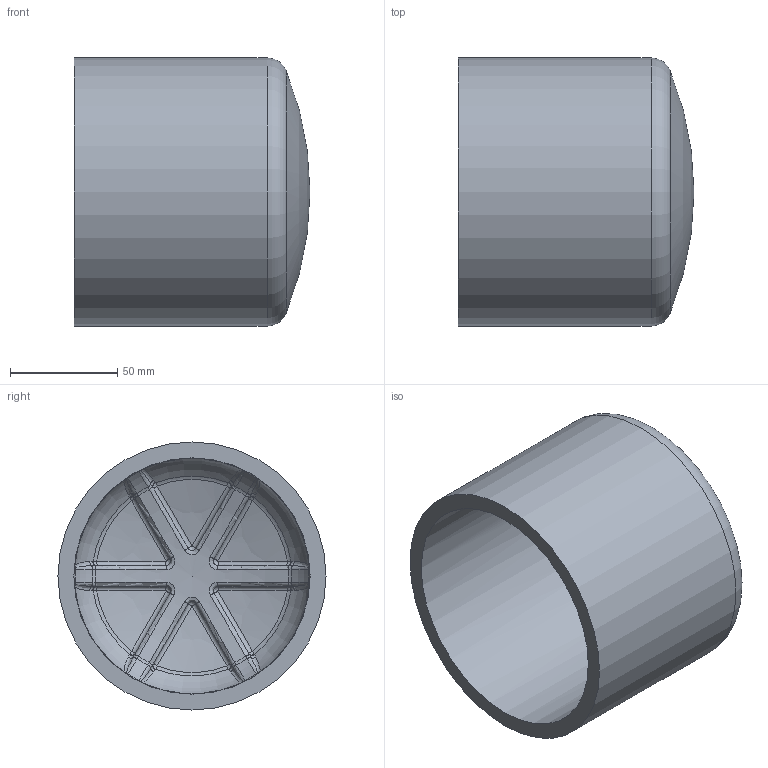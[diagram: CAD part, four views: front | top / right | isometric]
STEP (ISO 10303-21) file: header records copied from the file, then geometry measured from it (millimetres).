
FILE_DESCRIPTION(/* description */ ('Unknown'),/* implementation_level */ '2;1');
FILE_NAME(/* name */ 'CAP125B',/* time_stamp */ '2022-04-02T09:23:38+02:00',/* author */ ('Unknown'),/* organization */ ('Unknown'),/* preprocessor_version */ 'ST-DEVELOPER v18.1',/* originating_system */ 'Solid Edge',/* authorisation */ 'Unknown');
FILE_SCHEMA (('AUTOMOTIVE_DESIGN {1 0 10303 214 3 1 1}'));
Length unit declared in the file: millimetre
Products named in the file (1): CAP125B
Bounding box: 110 x 125 x 125 mm (x, y, z)
Volume: 353205.5 mm3; surface area: 93891.5 mm2
Topology: 1 solids, 1 shells, 204 faces, 476 edges, 261 vertices
Faces by surface type: bspline 132, torus 61, sphere 8, cylinder 2, plane 1
Full cylindrical faces by diameter (mm): 110.2 x1, 125 x1
Entity records: 7034 total; most frequent: CARTESIAN_POINT 3321, ORIENTED_EDGE 908, DIRECTION 610, EDGE_CURVE 454, AXIS2_PLACEMENT_3D 305, VERTEX_POINT 256, CIRCLE 232, B_SPLINE_CURVE_WITH_KNOTS 222
